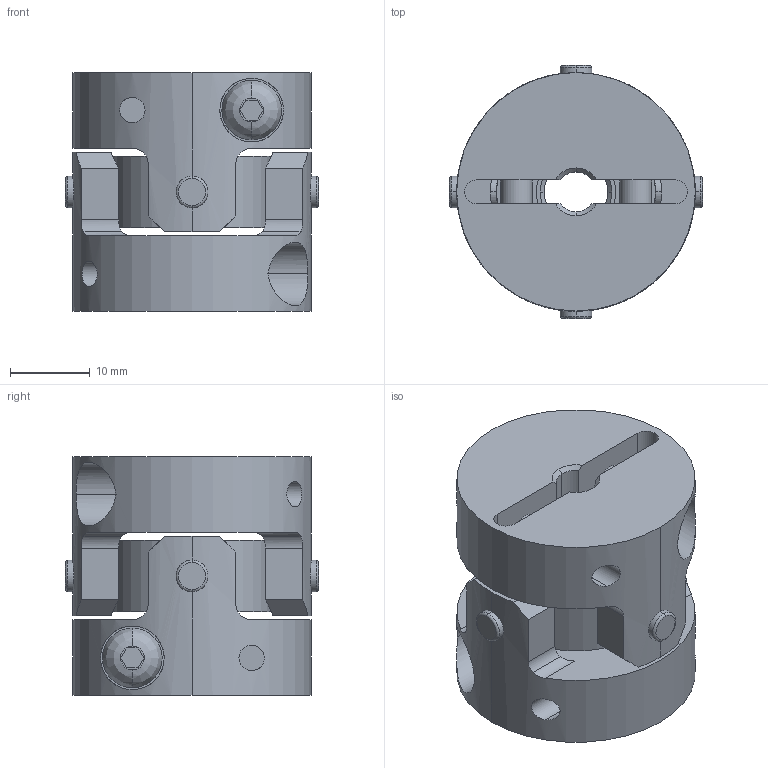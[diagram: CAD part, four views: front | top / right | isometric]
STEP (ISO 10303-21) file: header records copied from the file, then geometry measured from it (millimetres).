
FILE_DESCRIPTION((''),'2;1');
FILE_NAME('UA-30C-5×8.stp','2013-11-12T14:24:16',(''),(''),'AutoCAD STEP 2000i','AutoCAD 2000i',', , ');
FILE_SCHEMA(('CONFIG_CONTROL_DESIGN'));
Length unit declared in the file: millimetre
Products named in the file (6): UA-30C-6×6; 忣兜1; UA-3002-D06-1; BTN-M4; UA-3002-D06; UA30-SEN
Assembly tree (6 placements, depth 3):
  UA-30C-6×6
    忣兜1
    UA-3002-D06-1
      BTN-M4
    UA-3002-D06
      BTN-M4
    UA30-SEN
Bounding box: 31.82 x 31.82 x 30 mm (x, y, z)
Volume: 14897.9 mm3; surface area: 8907.8 mm2
Topology: 1 solids, 1 shells, 206 faces, 554 edges, 364 vertices
Faces by surface type: cylinder 96, plane 78, cone 16, bspline 8, torus 8
Entity records: 8479 total; most frequent: CARTESIAN_POINT 3163, ORIENTED_EDGE 1108, DIRECTION 1064, EDGE_CURVE 554, AXIS2_PLACEMENT_3D 409, VERTEX_POINT 364, VECTOR 246, LINE 246
